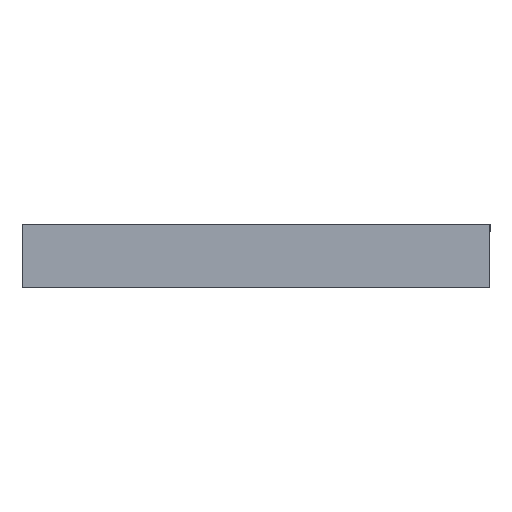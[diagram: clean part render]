
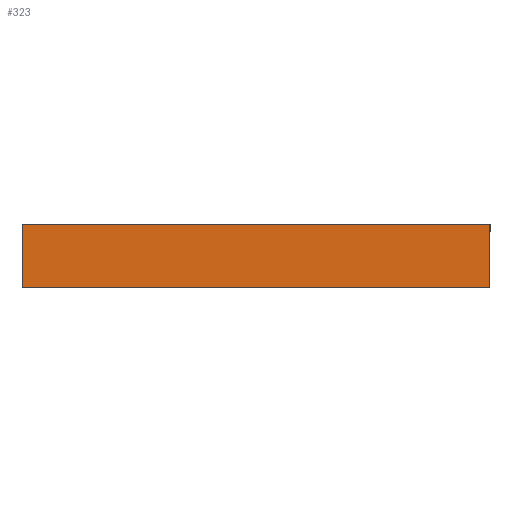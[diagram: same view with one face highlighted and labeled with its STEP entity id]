
A CAD part, left-side view. The second image highlights one B-rep face of the part: STEP entity #323.
In plain terms, the highlighted planar face has unit normal (-1, 0, 0).
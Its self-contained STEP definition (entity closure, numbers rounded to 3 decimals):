
#35 = EDGE_CURVE ( 'NONE', #529, #514, #194, .T. ) ;
#44 = EDGE_CURVE ( 'NONE', #500, #529, #176, .T. ) ;
#46 = AXIS2_PLACEMENT_3D ( 'NONE', #466, #458, #457 ) ;
#55 = EDGE_CURVE ( 'NONE', #494, #514, #160, .T. ) ;
#60 = EDGE_CURVE ( 'NONE', #500, #494, #152, .T. ) ;
#125 = FACE_OUTER_BOUND ( 'NONE', #240, .T. ) ;
#151 = VECTOR ( 'NONE', #501, 1000. ) ;
#152 = LINE ( 'NONE', #502, #151 ) ;
#159 = VECTOR ( 'NONE', #513, 1000. ) ;
#160 = LINE ( 'NONE', #515, #159 ) ;
#175 = VECTOR ( 'NONE', #537, 1000. ) ;
#176 = LINE ( 'NONE', #538, #175 ) ;
#193 = VECTOR ( 'NONE', #565, 1000. ) ;
#194 = LINE ( 'NONE', #566, #193 ) ;
#240 = EDGE_LOOP ( 'NONE', ( #292, #293, #294, #295 ) ) ;
#292 = ORIENTED_EDGE ( 'NONE', *, *, #35, .T. ) ;
#293 = ORIENTED_EDGE ( 'NONE', *, *, #55, .F. ) ;
#294 = ORIENTED_EDGE ( 'NONE', *, *, #60, .F. ) ;
#295 = ORIENTED_EDGE ( 'NONE', *, *, #44, .T. ) ;
#323 = ADVANCED_FACE ( 'NONE', ( #125 ), #470, .F. ) ;
#382 = CARTESIAN_POINT ( 'NONE',  ( -300., 479., 0. ) ) ;
#386 = CARTESIAN_POINT ( 'NONE',  ( -300., 0., 0. ) ) ;
#390 = CARTESIAN_POINT ( 'NONE',  ( -300., 479., 65. ) ) ;
#395 = CARTESIAN_POINT ( 'NONE',  ( -300., 0., 65. ) ) ;
#457 = DIRECTION ( 'NONE',  ( 0., 1., 0. ) ) ;
#458 = DIRECTION ( 'NONE',  ( 1., 0., 0. ) ) ;
#466 = CARTESIAN_POINT ( 'NONE',  ( -300., 0., 65. ) ) ;
#470 = PLANE ( 'NONE',  #46 ) ;
#494 = VERTEX_POINT ( 'NONE', #395 ) ;
#500 = VERTEX_POINT ( 'NONE', #390 ) ;
#501 = DIRECTION ( 'NONE',  ( 0., -1., 0. ) ) ;
#502 = CARTESIAN_POINT ( 'NONE',  ( -300., 0., 65. ) ) ;
#513 = DIRECTION ( 'NONE',  ( 0., 0., -1. ) ) ;
#514 = VERTEX_POINT ( 'NONE', #386 ) ;
#515 = CARTESIAN_POINT ( 'NONE',  ( -300., 0., 65. ) ) ;
#529 = VERTEX_POINT ( 'NONE', #382 ) ;
#537 = DIRECTION ( 'NONE',  ( 0., 0., -1. ) ) ;
#538 = CARTESIAN_POINT ( 'NONE',  ( -300., 479., 65. ) ) ;
#565 = DIRECTION ( 'NONE',  ( 0., -1., 0. ) ) ;
#566 = CARTESIAN_POINT ( 'NONE',  ( -300., 0., 0. ) ) ;
